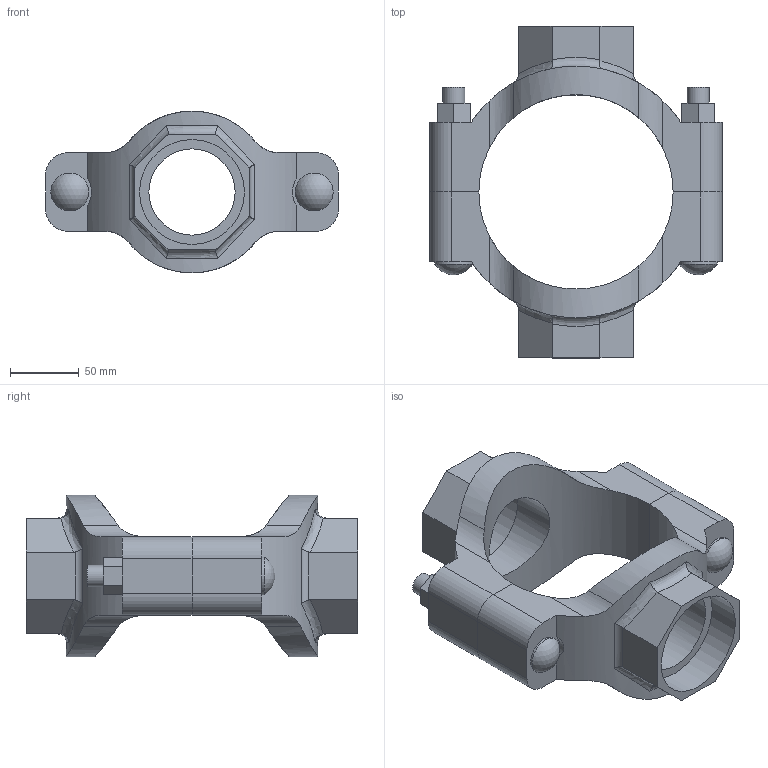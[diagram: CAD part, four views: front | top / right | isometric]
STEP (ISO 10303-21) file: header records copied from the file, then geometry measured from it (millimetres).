
FILE_DESCRIPTION(/* description */ ('VIC MECH-T BRANCH OUTLET CROSS STYLE 920N (THD)','CAx-IF Rec.Pracs.---Representation and Presentation of Product Manufacturing Information (PMI)---4.0---2014-10-13'),/* implementation_level */ '2;1');
FILE_NAME(/* name */ 'C:\Users\Vjadhav\AppData\Roaming\Autodesk\ApplicationPlugins\Back Up\Victaulic_IPS_Mechanical-Cross Outlet_Style 920N (FPT)\Victaulic_IPS_Mechanical-Cross Outlet_05.0x02.5 (76.1)x02.5 (76.1) (125x65x65).stp',/* time_stamp */ '2020-08-06T18:59:18+05:00',/* author */ ('Vjadhav'),/* organization */ ('Victaulic'),/* preprocessor_version */ 'ST-DEVELOPER v17.2',/* originating_system */ 'Autodesk Inventor 2019',/* authorisation */ '');
FILE_SCHEMA (('AP242_MANAGED_MODEL_BASED_3D_ENGINEERING_MIM_LF { 1 0 10303 442 1 1 4 }'));
Length unit declared in the file: inch
Products named in the file (3): 920NT-05.0x02.5 (76.1)x02.5 (76.1); 920T-05.0x02.5 (76.1); 920T-05.0x02.5 (76.1)_1
Assembly tree (2 placements, depth 2):
  920NT-05.0x02.5 (76.1)x02.5 (76.1)
    920T-05.0x02.5 (76.1)
    920T-05.0x02.5 (76.1)_1
Bounding box: 212.85 x 241.3 x 117.56 mm (x, y, z)
Volume: 997448.3 mm3; surface area: 175500 mm2
Topology: 2 solids, 2 shells, 132 faces, 350 edges, 236 vertices
Faces by surface type: plane 68, cylinder 50, bspline 8, torus 4, sphere 2
Full cylindrical faces by diameter (mm): 15.875 x4, 27.496 x2, 62.738 x2, 76.2 x2
Entity records: 5286 total; most frequent: CARTESIAN_POINT 1773, ORIENTED_EDGE 700, DIRECTION 648, EDGE_CURVE 350, VERTEX_POINT 236, AXIS2_PLACEMENT_3D 231, LINE 186, VECTOR 186
